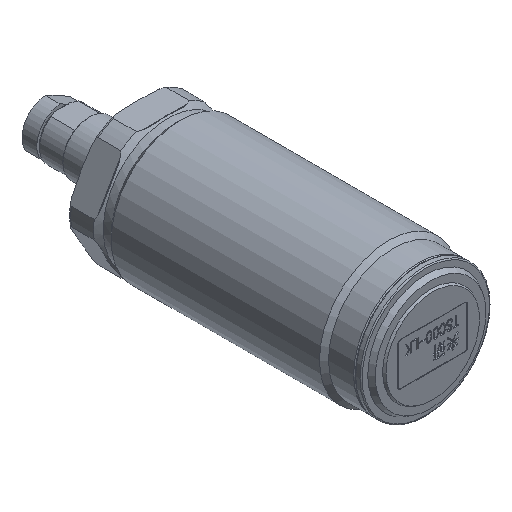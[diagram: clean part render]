
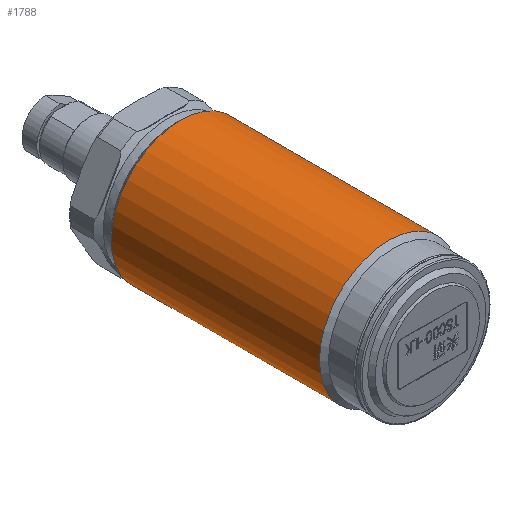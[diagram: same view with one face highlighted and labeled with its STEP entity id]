
A CAD part, isometric view. The second image highlights one B-rep face of the part: STEP entity #1788.
In plain terms, the highlighted cylindrical face has radius 13 mm (diameter 26 mm), a full revolution.
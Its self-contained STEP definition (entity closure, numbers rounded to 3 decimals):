
#1750=CYLINDRICAL_SURFACE('',#5694,13.);
#1788=ADVANCED_FACE('',(#2183,#2184),#1750,.T.);
#2183=FACE_BOUND('',#2284,.T.);
#2184=FACE_BOUND('',#2285,.T.);
#2284=EDGE_LOOP('',(#2679));
#2285=EDGE_LOOP('',(#2680));
#2587=CIRCLE('',#5691,13.);
#2588=CIRCLE('',#5693,13.);
#2679=ORIENTED_EDGE('',*,*,#4301,.F.);
#2680=ORIENTED_EDGE('',*,*,#4302,.T.);
#3884=VERTEX_POINT('',#6954);
#3885=VERTEX_POINT('',#6957);
#4301=EDGE_CURVE('',#3884,#3884,#2587,.T.);
#4302=EDGE_CURVE('',#3885,#3885,#2588,.T.);
#5691=AXIS2_PLACEMENT_3D('',#6953,#5994,#5995);
#5693=AXIS2_PLACEMENT_3D('',#6956,#5998,#5999);
#5694=AXIS2_PLACEMENT_3D('',#6958,#6000,#6001);
#5994=DIRECTION('',(0.,-1.,0.));
#5995=DIRECTION('',(0.,0.,-1.));
#5998=DIRECTION('',(0.,-1.,0.));
#5999=DIRECTION('',(0.,0.,-1.));
#6000=DIRECTION('',(0.,-1.,0.));
#6001=DIRECTION('',(0.,0.,-1.));
#6953=CARTESIAN_POINT('',(-4.265,8.25,0.));
#6954=CARTESIAN_POINT('',(-4.265,8.25,-13.));
#6956=CARTESIAN_POINT('',(-4.265,47.3,0.));
#6957=CARTESIAN_POINT('',(-4.265,47.3,-13.));
#6958=CARTESIAN_POINT('',(-4.265,-13.833,0.));
